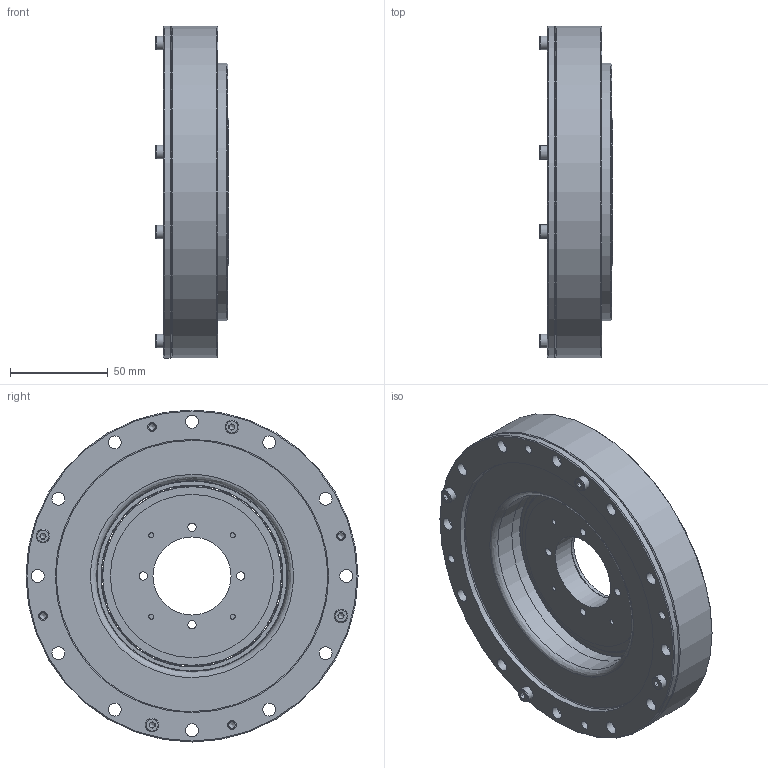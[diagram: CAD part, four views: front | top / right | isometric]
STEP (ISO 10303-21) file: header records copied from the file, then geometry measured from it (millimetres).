
FILE_DESCRIPTION (( 'STEP AP203' ), '1' );
FILE_NAME ('LHD-40-XXX-C-I.STEP', '2025-01-08T10:35:21', ( '' ), ( '' ), 'SwSTEP 2.0', 'SolidWorks 2023', '' );
FILE_SCHEMA (( 'CONFIG_CONTROL_DESIGN' ));
Length unit declared in the file: metre
Products named in the file (1): LHD-40-XXX-C-I
Bounding box: 37.45 x 170 x 170 mm (x, y, z)
Volume: 414618.3 mm3; surface area: 227170.2 mm2
Topology: 47 solids, 47 shells, 734 faces, 1733 edges, 1087 vertices
Faces by surface type: plane 334, cylinder 217, cone 116, bspline 67
Full cylindrical faces by diameter (mm): 2.5 x4, 3 x4, 3.3 x8, 3.4 x4, 4 x4, 4.2 x10, 4.5 x8, 5 x18, 5.5 x10, 6 x4, 6.6 x36, 7 x4, 8.5 x6, 9 x6, 40 x1, 40.2 x1, 69 x2, 70.5 x1, 72 x2, 75 x1, 76 x1, 76.928 x2, 78.13 x1, 83.5 x1, 91.47 x1, 92.821 x2, 97.6 x1, 97.971 x1, 100.56 x1, 102.281 x1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
Entity records: 22877 total; most frequent: CARTESIAN_POINT 7646, DIRECTION 3234, ORIENTED_EDGE 2618, AXIS2_PLACEMENT_3D 1379, EDGE_CURVE 1309, EDGE_LOOP 1202, VERTEX_POINT 985, FACE_OUTER_BOUND 926
